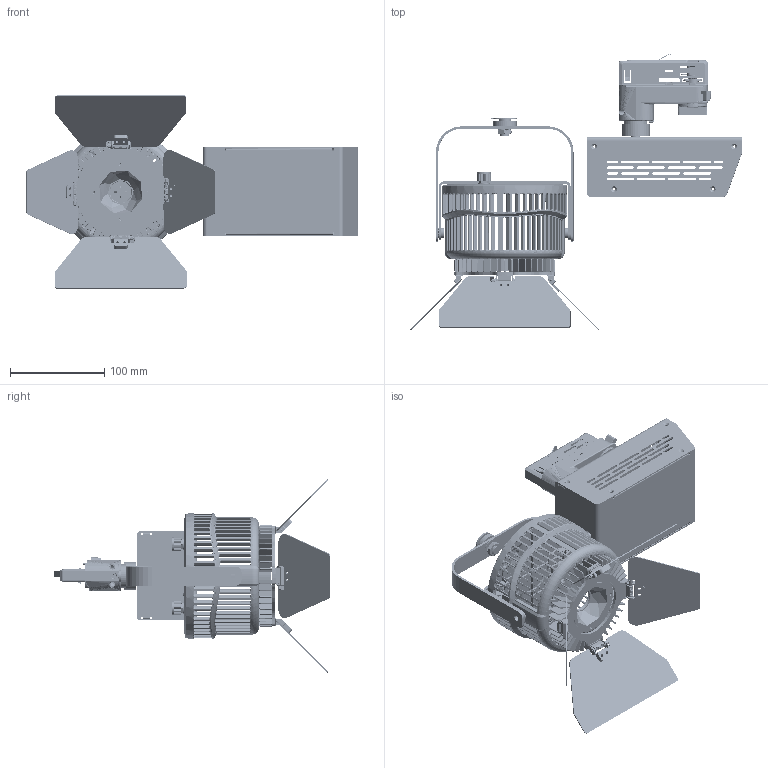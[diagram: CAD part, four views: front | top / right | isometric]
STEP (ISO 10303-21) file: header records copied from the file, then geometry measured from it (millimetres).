
FILE_DESCRIPTION (( 'STEP AP214' ), '1' );
FILE_NAME ('W500BD-TOX-PS.STEP', '2024-02-01T19:53:42', ( '' ), ( '' ), 'SwSTEP 2.0', 'SolidWorks 2022', '' );
FILE_SCHEMA (( 'AUTOMOTIVE_DESIGN' ));
Length unit declared in the file: millimetre
Products named in the file (43): 5022770-XXX_A1_RETAINING COLLAR M10P1.0 FOR ONETRACK POWER BOX OD30x29.8mm___; 5020893-3211020005_ _Flat Washer Customized, Nylon Black, ID11mm OD20mm T0.5mm___; 5020757-001_A1_VR Nut, Kessil A360 Aquarium Light___; 62280-1363006_ _SCREW, M3x6mmL, PAN HEAD TORX WITH THREAD LOCK___; 5022424-XXX_A2_250W Power Box Cover (TG&TEX-PS&CLP&TJ TYPE), 165x92x62.5(H)mm___; W500BD-TOX-PS; 5021948_A1_Narrow Reflector, OD=54, T=15.6MM___; 62280-1313006_ _SCREW, M3x6mmL, PAN HEAD TORX WITH THREAD LOCK___; 5120539-XXX_A1_Housing, OD=133, ID=121, T=78.1mm, For Reflector, Without Logo___; 5022667-XXX_A1_Holder, Barn Door Frame For W-Series, OD=107, T=3mm___; 5120529-XXX_A1_Assembly BOM, W500 Light Engine_Finish; 5022189_A1_Plate, OD=48, ID=23, T=2.0mm___; 5022341-XXX_A1_Minor Leaf of 3 inch Barndoor, L96, W77, T1.1___; 5022358-1051452003_ _Wave Spring Washer, ID10.5 OD14.5 H2.0 T0.3, Black___; 5022446-XXX_A2_W Series, 15F YOKE PART-A, 140x62x18mm___; 5022185_A3_Frame, T=1.5mm AL5052 Black, 24x20x65.15mm___; 5021926-XXX_A2_KNOB, 18T, OD=14.9, ID=6, L=10MM_C1; 5120530-XXX_A1_Assembly BOM, W500 Reflector Type_Reflector - 55D-BD; 62280-1343006_ _SCREW, PAN HEAD TROX W-THD LOCK, SUS-410, BLACK, M3xL6mm___; 5020919-XXX_A5_Spacer, Pitch 6.0, Light Shielding, Barn Door___; 5022427-XXX_A4_250W Power Box FRAME (TG&TEX&CLP TYPE), 165x95x64mm___; 5022452-001_A3_Reflector Sink Holder, D108x14.35(H)mm (-002 is White)_-001(Black); 5022340-XXX_A1_Major Leaf of 3 inch Barndoor, L140, W77, T1.1___; 5120540-XXX_A1_Rear Panel, OD=133, T=13.65mm, W-Series_5120531-001 W500; 5020921-XXX_A5_Spacer, Pitch 7.4, Light Shielding, Barn Door___; 5020655-012_A4_Hinge, Assembly, Barndoor Video Light, Pitch7.4, Black_01; 5120519-XXX_A3_Assembly BOM, Kessil W500 Power Box_TON(US)-PS; 5047592-XXX_A2_A.A.G. STUCCHI-Adapter for ONE Track Series(4 Conductors), for US___; 62432-11100100140040_ _Hex Nuts Customized, M10 P1.0 S14 T4 W-Zinc___; 5120531-XXX_A4_Assembly BOM, Light Mounting Type for Yoke_TEX; 5120561_A1_Frame, T=1.5mm AL5052 Black, 17.5x20x65.15mm___; 5021924_A2_BOLT SCREW, M3.0, L=19.2MM___; 5020734-XXX_A3_Spacer, Hinge, Barn Door_-001_Black; 5022771-XXX_A1_RETAINING M10P1.5 FOR ONETRACK LIGHT SIDE OD25x19.8mm___; 5022398-XXX_A1_Plug for W Series, 19x10x9.4mm_-002(Black); 5022445-XXX_A1_DC Plug for W Series, D=12mm_-002(Black); 5022447-XXX_A2_W Series, 15F YOKE PART-B, 146.2x122.5x20mm___; 5047592-XXX_A2_A.A.G. STUCCHI-Adapter for ONE Track Series(6 Conductors), for US___; 5020757-002_A2_VR Washer, Kessil A360 Aquarium Light___; 5021287_A2_Toothed Lock Washer M6, OD11 ID6.4 T0.55, SUS___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
Assembly tree (61 placements, depth 4):
  W500BD-TOX-PS
    5120519-XXX_A3_Assembly BOM, Kessil W500 Power Box_TON(US)-PS
      5022427-XXX_A4_250W Power Box FRAME (TG&TEX&CLP TYPE), 165x95x64mm___
      5022770-XXX_A1_RETAINING COLLAR M10P1.0 FOR ONETRACK POWER BOX OD30x29.8mm___
      5047592-XXX_A2_A.A.G. STUCCHI-Adapter for ONE Track Series(6 Conductors), for US___
      5022424-XXX_A2_250W Power Box Cover (TG&TEX-PS&CLP&TJ TYPE), 165x92x62.5(H)mm___
    5010177-XXX_A2_Assembly BOM, Kessil W500_55D-BD-[TEX]
      5120529-XXX_A1_Assembly BOM, W500 Light Engine_Finish
        5120540-XXX_A1_Rear Panel, OD=133, T=13.65mm, W-Series_5120531-001 W500
        5022398-XXX_A1_Plug for W Series, 19x10x9.4mm_-002(Black)
        5022445-XXX_A1_DC Plug for W Series, D=12mm_-002(Black)
        5022185_A3_Frame, T=1.5mm AL5052 Black, 24x20x65.15mm___
        5120561_A1_Frame, T=1.5mm AL5052 Black, 17.5x20x65.15mm___
        5022348-104_ _Toothed Washer Series, M3___  x2
        62280-1313006_ _SCREW, M3x6mmL, PAN HEAD TORX WITH THREAD LOCK___  x4
        5021924_A2_BOLT SCREW, M3.0, L=19.2MM___  x2
        5020757-002_A2_VR Washer, Kessil A360 Aquarium Light___  x2
        5020757-001_A1_VR Nut, Kessil A360 Aquarium Light___  x2
        5021926-XXX_A2_KNOB, 18T, OD=14.9, ID=6, L=10MM_C1  x2
        62280-1363006_ _SCREW, M3x6mmL, PAN HEAD TORX WITH THREAD LOCK___  x2
      5120530-XXX_A1_Assembly BOM, W500 Reflector Type_Reflector - 55D-BD
        5120539-XXX_A1_Housing, OD=133, ID=121, T=78.1mm, For Reflector, Without Logo___
        5022189_A1_Plate, OD=48, ID=23, T=2.0mm___
        62280-1343006_ _SCREW, PAN HEAD TROX W-THD LOCK, SUS-410, BLACK, M3xL6mm___  x2
        5022452-001_A3_Reflector Sink Holder, D108x14.35(H)mm (-002 is White)_-001(Black)
        5021948_A1_Narrow Reflector, OD=54, T=15.6MM___
        5020655-011_A4_Hinge, Assembly, Barndoor Video Light, Pitch6.0, Black_01  x2
        5020919-XXX_A5_Spacer, Pitch 6.0, Light Shielding, Barn Door___  x2
        5022341-XXX_A1_Minor Leaf of 3 inch Barndoor, L96, W77, T1.1___  x2
        5020655-012_A4_Hinge, Assembly, Barndoor Video Light, Pitch7.4, Black_01  x2
        5020921-XXX_A5_Spacer, Pitch 7.4, Light Shielding, Barn Door___  x2
        5020734-XXX_A3_Spacer, Hinge, Barn Door_-001_Black  x2
        5022340-XXX_A1_Major Leaf of 3 inch Barndoor, L140, W77, T1.1___  x2
        5022667-XXX_A1_Holder, Barn Door Frame For W-Series, OD=107, T=3mm___
      5120531-XXX_A4_Assembly BOM, Light Mounting Type for Yoke_TEX
        5022447-XXX_A2_W Series, 15F YOKE PART-B, 146.2x122.5x20mm___
        5022446-XXX_A2_W Series, 15F YOKE PART-A, 140x62x18mm___
        5021287_A2_Toothed Lock Washer M6, OD11 ID6.4 T0.55, SUS___  x2
        5022358-1051452003_ _Wave Spring Washer, ID10.5 OD14.5 H2.0 T0.3, Black___
        5020893-3211020005_ _Flat Washer Customized, Nylon Black, ID11mm OD20mm T0.5mm___  x2
        62432-11100100140040_ _Hex Nuts Customized, M10 P1.0 S14 T4 W-Zinc___
        5022771-XXX_A1_RETAINING M10P1.5 FOR ONETRACK LIGHT SIDE OD25x19.8mm___
        5047592-XXX_A2_A.A.G. STUCCHI-Adapter for ONE Track Series(4 Conductors), for US___
Bounding box: 353.13 x 294.3 x 205.95 mm (x, y, z)
Volume: 352719.8 mm3; surface area: 475572 mm2
Topology: 79 solids, 83 shells, 12346 faces, 33948 edges, 21718 vertices
Faces by surface type: plane 5661, cylinder 3764, bspline 1852, cone 651, torus 414, sphere 4
Entity records: 779800 total; most frequent: CARTESIAN_POINT 347355, ORIENTED_EDGE 83179, DIRECTION 62146, EDGE_CURVE 41891, VERTEX_POINT 26846, LINE 21872, VECTOR 21872, AXIS2_PLACEMENT_3D 20137
